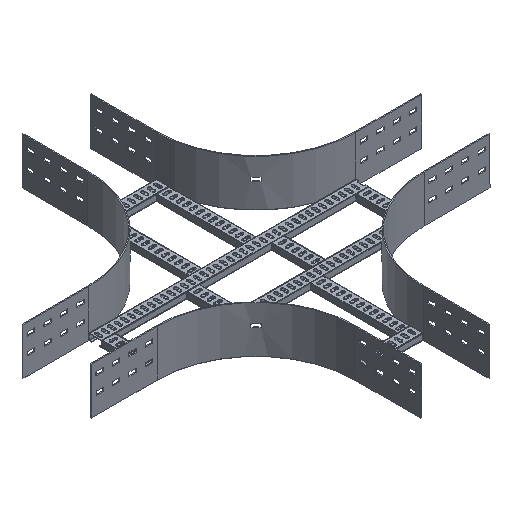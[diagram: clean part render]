
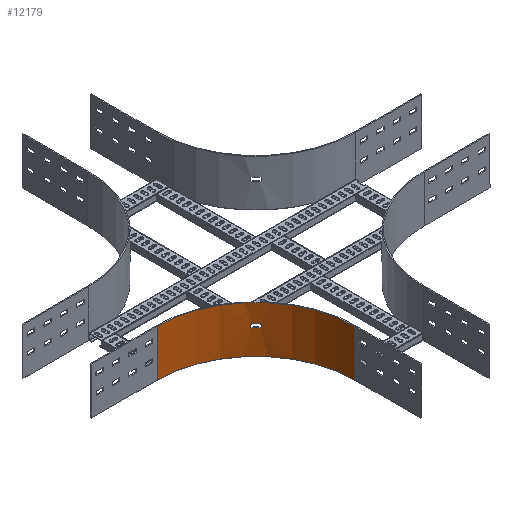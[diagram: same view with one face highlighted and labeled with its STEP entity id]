
A CAD part, isometric view. The second image highlights one B-rep face of the part: STEP entity #12179.
In plain terms, the highlighted cylindrical face has radius 300 mm (diameter 600 mm), a partial arc.
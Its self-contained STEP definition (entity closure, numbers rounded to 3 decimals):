
#343=FACE_BOUND('',#1749,.T.);
#567=CYLINDRICAL_SURFACE('',#12835,300.);
#612=CIRCLE('',#12827,300.);
#617=CIRCLE('',#12834,300.);
#618=CIRCLE('',#12836,300.);
#619=CIRCLE('',#12837,300.);
#1119=FACE_OUTER_BOUND('',#1748,.T.);
#1748=EDGE_LOOP('',(#8252,#8253,#8254,#8255));
#1749=EDGE_LOOP('',(#8256,#8257,#8258,#8259));
#2599=LINE('',#17023,#3899);
#2601=LINE('',#17029,#3901);
#2606=LINE('',#17053,#3906);
#2607=LINE('',#17056,#3907);
#3899=VECTOR('',#13819,304.8);
#3901=VECTOR('',#13823,304.8);
#3906=VECTOR('',#13850,304.8);
#3907=VECTOR('',#13853,304.8);
#5196=VERTEX_POINT('',#17016);
#5199=VERTEX_POINT('',#17021);
#5201=VERTEX_POINT('',#17026);
#5202=VERTEX_POINT('',#17028);
#5208=VERTEX_POINT('',#17049);
#5209=VERTEX_POINT('',#17050);
#5210=VERTEX_POINT('',#17052);
#5211=VERTEX_POINT('',#17054);
#6407=EDGE_CURVE('',#5199,#5196,#2599,.T.);
#6409=EDGE_CURVE('',#5201,#5202,#2601,.T.);
#6412=EDGE_CURVE('',#5196,#5201,#612,.T.);
#6419=EDGE_CURVE('',#5202,#5199,#617,.T.);
#6420=EDGE_CURVE('',#5208,#5209,#618,.T.);
#6421=EDGE_CURVE('',#5209,#5210,#2606,.T.);
#6422=EDGE_CURVE('',#5210,#5211,#619,.T.);
#6423=EDGE_CURVE('',#5211,#5208,#2607,.T.);
#8252=ORIENTED_EDGE('',*,*,#6407,.F.);
#8253=ORIENTED_EDGE('',*,*,#6419,.F.);
#8254=ORIENTED_EDGE('',*,*,#6409,.F.);
#8255=ORIENTED_EDGE('',*,*,#6412,.F.);
#8256=ORIENTED_EDGE('',*,*,#6420,.T.);
#8257=ORIENTED_EDGE('',*,*,#6421,.T.);
#8258=ORIENTED_EDGE('',*,*,#6422,.T.);
#8259=ORIENTED_EDGE('',*,*,#6423,.T.);
#12179=ADVANCED_FACE('',(#1119,#343),#567,.F.);
#12827=AXIS2_PLACEMENT_3D('',#17034,#13828,#13829);
#12834=AXIS2_PLACEMENT_3D('',#17047,#13844,#13845);
#12835=AXIS2_PLACEMENT_3D('',#17048,#13846,#13847);
#12836=AXIS2_PLACEMENT_3D('',#17051,#13848,#13849);
#12837=AXIS2_PLACEMENT_3D('',#17055,#13851,#13852);
#13819=DIRECTION('',(0.,0.,1.));
#13823=DIRECTION('',(0.,0.,-1.));
#13828=DIRECTION('center_axis',(0.,0.,-1.));
#13829=DIRECTION('ref_axis',(0.,1.,0.));
#13844=DIRECTION('center_axis',(0.,0.,1.));
#13845=DIRECTION('ref_axis',(0.,1.,0.));
#13846=DIRECTION('center_axis',(0.,0.,-1.));
#13847=DIRECTION('ref_axis',(0.,1.,0.));
#13848=DIRECTION('center_axis',(0.,0.,-1.));
#13849=DIRECTION('ref_axis',(0.,1.,0.));
#13850=DIRECTION('',(0.,0.,-1.));
#13851=DIRECTION('center_axis',(0.,0.,1.));
#13852=DIRECTION('ref_axis',(0.,1.,0.));
#13853=DIRECTION('',(0.,0.,1.));
#17016=CARTESIAN_POINT('',(-405.5,-105.5,71.));
#17021=CARTESIAN_POINT('',(-405.5,-105.5,-71.));
#17023=CARTESIAN_POINT('',(-405.5,-105.5,-71.));
#17026=CARTESIAN_POINT('',(-105.5,-405.5,71.));
#17028=CARTESIAN_POINT('',(-105.5,-405.5,-71.));
#17029=CARTESIAN_POINT('',(-105.5,-405.5,71.));
#17034=CARTESIAN_POINT('Origin',(-405.5,-405.5,71.));
#17047=CARTESIAN_POINT('Origin',(-405.5,-405.5,-71.));
#17048=CARTESIAN_POINT('Origin',(-405.5,-405.5,0.));
#17049=CARTESIAN_POINT('',(-201.26,-185.759,15.5));
#17050=CARTESIAN_POINT('',(-185.706,-201.318,15.5));
#17051=CARTESIAN_POINT('Origin',(-405.5,-405.5,15.5));
#17052=CARTESIAN_POINT('',(-185.706,-201.318,4.5));
#17053=CARTESIAN_POINT('',(-185.706,-201.318,15.5));
#17054=CARTESIAN_POINT('',(-201.26,-185.759,4.5));
#17055=CARTESIAN_POINT('Origin',(-405.5,-405.5,4.5));
#17056=CARTESIAN_POINT('',(-201.26,-185.759,4.5));
